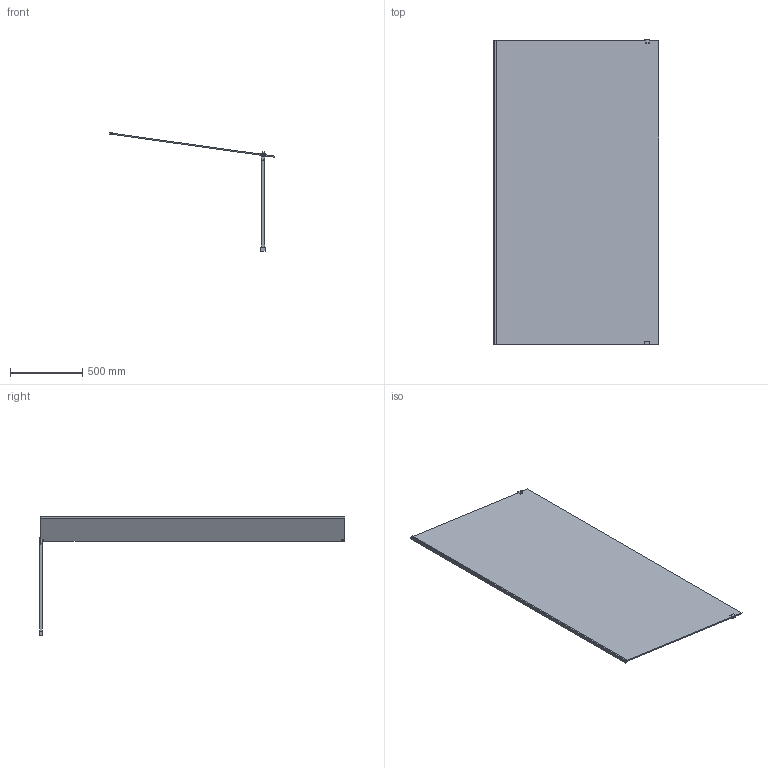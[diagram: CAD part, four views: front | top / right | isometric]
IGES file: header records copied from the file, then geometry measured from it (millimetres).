
Start section: SolidWorks IGES file using analytic representation for surfaces
Global section: file name: D:\Users\M.Szymanski\Desktop\Kabiny\PT\03. do przegrania\PT_ALTIIa_120_K3D.IGS; native system: SolidWorks 2011; preprocessor: SolidWorks 2011; author: M.Szymanski; date: 181004.121804; units: millimetre
Bounding box: 1146.95 x 2115 x 823.54 mm (x, y, z)
Surface area: 5149512.3 mm2 (no closed solid volume)
Topology: 0 solids, 0 shells, 66 faces, 495 edges, 660 vertices
Faces by surface type: bspline 60, revolution 6
